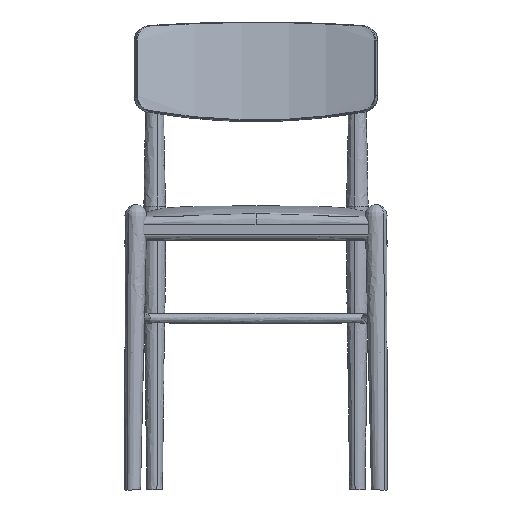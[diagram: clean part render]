
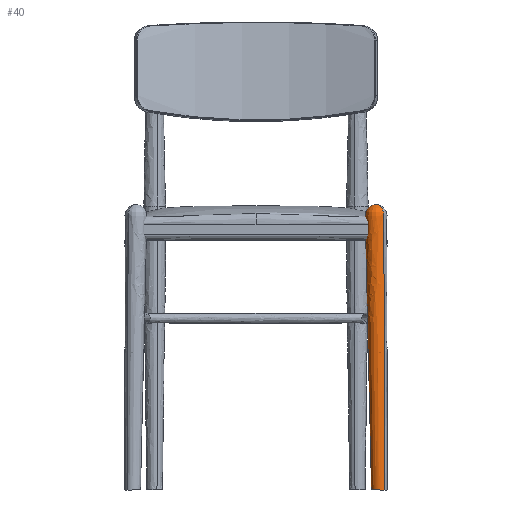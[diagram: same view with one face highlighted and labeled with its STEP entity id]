
A CAD part, front view. The second image highlights one B-rep face of the part: STEP entity #40.
In plain terms, the highlighted free-form (B-spline) face has degree [2, 2] with [5, 9] control points.
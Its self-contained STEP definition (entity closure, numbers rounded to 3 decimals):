
#40=ADVANCED_FACE('',(#111),#950,.T.);
#111=FACE_OUTER_BOUND('',#182,.T.);
#182=EDGE_LOOP('',(#304,#305,#306));
#304=ORIENTED_EDGE('',*,*,#614,.T.);
#305=ORIENTED_EDGE('',*,*,#579,.F.);
#306=ORIENTED_EDGE('',*,*,#580,.F.);
#579=EDGE_CURVE('',#872,#896,#806,.T.);
#580=EDGE_CURVE('',#873,#872,#703,.T.);
#614=EDGE_CURVE('',#873,#896,#716,.T.);
#703=(
BOUNDED_CURVE()
B_SPLINE_CURVE(2,(#4288,#4289,#4290,#4291,#4292,#4293,#4294,#4295,#4296),
 .UNSPECIFIED.,.F.,.F.)
B_SPLINE_CURVE_WITH_KNOTS((3,2,2,2,3),(53.911,54.978,
109.956,989.341,989.625),.UNSPECIFIED.)
CURVE()
GEOMETRIC_REPRESENTATION_ITEM()
RATIONAL_B_SPLINE_CURVE((1.,1.,1.,0.707,1.,
1.,1.,1.,1.))
REPRESENTATION_ITEM('')
);
#716=(
BOUNDED_CURVE()
B_SPLINE_CURVE(2,(#4675,#4676,#4677,#4678,#4679,#4680,#4681),
 .UNSPECIFIED.,.F.,.F.)
B_SPLINE_CURVE_WITH_KNOTS((3,2,2,3),(53.911,54.978,
109.956,988.813),.UNSPECIFIED.)
CURVE()
GEOMETRIC_REPRESENTATION_ITEM()
RATIONAL_B_SPLINE_CURVE((1.,1.,1.,0.707,1.,
1.,1.))
REPRESENTATION_ITEM('')
);
#806=B_SPLINE_CURVE_WITH_KNOTS('',3,(#4267,#4268,#4269,#4270,#4271,#4272,
#4273,#4274,#4275,#4276,#4277,#4278,#4279,#4280,#4281,#4282,#4283,#4284,
#4285,#4286,#4287),.UNSPECIFIED.,.F.,.F.,(4,2,3,3,3,2,2,2,4),(0.,4.938,
9.876,15.935,19.764,24.704,29.644,
34.583,39.523),.UNSPECIFIED.);
#872=VERTEX_POINT('',#4225);
#873=VERTEX_POINT('',#4226);
#896=VERTEX_POINT('',#4249);
#950=(
BOUNDED_SURFACE()
B_SPLINE_SURFACE(2,2,((#3595,#3596,#3597,#3598,#3599,#3600,#3601,#3602,
#3603),(#3604,#3605,#3606,#3607,#3608,#3609,#3610,#3611,#3612),(#3613,#3614,
#3615,#3616,#3617,#3618,#3619,#3620,#3621),(#3622,#3623,#3624,#3625,#3626,
#3627,#3628,#3629,#3630),(#3631,#3632,#3633,#3634,#3635,#3636,#3637,#3638,
#3639)),.UNSPECIFIED.,.F.,.F.,.F.)
B_SPLINE_SURFACE_WITH_KNOTS((3,2,3),(3,2,2,2,3),(0.,27.446,54.892),
(53.911,54.978,109.956,989.341,1012.028),
 .UNSPECIFIED.)
GEOMETRIC_REPRESENTATION_ITEM()
RATIONAL_B_SPLINE_SURFACE(((0.989,0.994,1.,0.707,
1.,1.,1.,1.,
1.),(0.699,0.703,0.707,
0.5,0.707,0.707,0.707,
0.707,0.707),(0.989,0.994,
1.,0.707,1.,1.,1.,
1.,1.),(0.699,0.703,
0.707,0.5,0.707,0.707,
0.707,0.707,0.707),(0.989,
0.994,1.,0.707,1.,1.,
1.,1.,1.)))
REPRESENTATION_ITEM('')
SURFACE()
);
#3595=CARTESIAN_POINT('',(192.248,17.752,457.343));
#3596=CARTESIAN_POINT('',(192.419,17.581,457.347));
#3597=CARTESIAN_POINT('',(192.59,17.41,457.345));
#3598=CARTESIAN_POINT('',(204.958,5.042,457.146));
#3599=CARTESIAN_POINT('',(204.818,5.182,439.654));
#3600=CARTESIAN_POINT('',(205.577,4.423,219.898));
#3601=CARTESIAN_POINT('',(206.337,3.663,0.142));
#3602=CARTESIAN_POINT('',(206.357,3.643,-5.527));
#3603=CARTESIAN_POINT('',(206.376,3.624,-11.197));
#3604=CARTESIAN_POINT('',(192.248,17.752,457.343));
#3605=CARTESIAN_POINT('',(192.248,17.41,457.347));
#3606=CARTESIAN_POINT('',(192.248,17.069,457.345));
#3607=CARTESIAN_POINT('',(192.252,-7.664,457.146));
#3608=CARTESIAN_POINT('',(192.453,-7.182,439.654));
#3609=CARTESIAN_POINT('',(194.977,-6.178,219.898));
#3610=CARTESIAN_POINT('',(197.501,-5.173,0.142));
#3611=CARTESIAN_POINT('',(197.566,-5.147,-5.527));
#3612=CARTESIAN_POINT('',(197.631,-5.121,-11.197));
#3613=CARTESIAN_POINT('',(192.248,17.752,457.343));
#3614=CARTESIAN_POINT('',(192.077,17.581,457.343));
#3615=CARTESIAN_POINT('',(191.907,17.41,457.337));
#3616=CARTESIAN_POINT('',(179.548,5.04,456.854));
#3617=CARTESIAN_POINT('',(180.09,5.181,439.37));
#3618=CARTESIAN_POINT('',(184.378,4.421,219.654));
#3619=CARTESIAN_POINT('',(188.667,3.662,-0.061));
#3620=CARTESIAN_POINT('',(188.777,3.642,-5.729));
#3621=CARTESIAN_POINT('',(188.888,3.623,-11.397));
#3622=CARTESIAN_POINT('',(192.248,17.752,457.343));
#3623=CARTESIAN_POINT('',(191.907,17.752,457.339));
#3624=CARTESIAN_POINT('',(191.565,17.752,457.329));
#3625=CARTESIAN_POINT('',(166.843,17.745,456.562));
#3626=CARTESIAN_POINT('',(167.727,17.544,439.086));
#3627=CARTESIAN_POINT('',(173.779,15.02,219.411));
#3628=CARTESIAN_POINT('',(179.832,12.497,-0.264));
#3629=CARTESIAN_POINT('',(179.988,12.431,-5.931));
#3630=CARTESIAN_POINT('',(180.144,12.366,-11.598));
#3631=CARTESIAN_POINT('',(192.248,17.752,457.343));
#3632=CARTESIAN_POINT('',(192.077,17.923,457.339));
#3633=CARTESIAN_POINT('',(191.907,18.093,457.329));
#3634=CARTESIAN_POINT('',(179.549,30.451,456.562));
#3635=CARTESIAN_POINT('',(180.091,29.909,439.086));
#3636=CARTESIAN_POINT('',(184.38,25.62,219.411));
#3637=CARTESIAN_POINT('',(188.668,21.332,-0.264));
#3638=CARTESIAN_POINT('',(188.778,21.222,-5.931));
#3639=CARTESIAN_POINT('',(188.889,21.111,-11.598));
#4225=CARTESIAN_POINT('',(206.337,3.663,0.));
#4226=CARTESIAN_POINT('',(192.248,17.752,457.343));
#4249=CARTESIAN_POINT('',(188.663,21.337,0.));
#4267=CARTESIAN_POINT('',(206.337,3.663,0.));
#4268=CARTESIAN_POINT('',(205.177,2.502,0.));
#4269=CARTESIAN_POINT('',(203.8,1.582,0.));
#4270=CARTESIAN_POINT('',(200.768,0.326,0.));
#4271=CARTESIAN_POINT('',(199.143,0.003,0.));
#4272=CARTESIAN_POINT('',(197.502,0.003,0.));
#4273=CARTESIAN_POINT('',(195.493,0.003,0.));
#4274=CARTESIAN_POINT('',(193.512,0.487,0.));
#4275=CARTESIAN_POINT('',(191.73,1.416,0.));
#4276=CARTESIAN_POINT('',(190.6,2.004,0.));
#4277=CARTESIAN_POINT('',(189.566,2.762,0.));
#4278=CARTESIAN_POINT('',(188.665,3.662,0.));
#4279=CARTESIAN_POINT('',(187.505,4.822,0.));
#4280=CARTESIAN_POINT('',(186.584,6.2,0.));
#4281=CARTESIAN_POINT('',(185.327,9.233,0.));
#4282=CARTESIAN_POINT('',(185.003,10.858,0.));
#4283=CARTESIAN_POINT('',(185.003,14.141,0.));
#4284=CARTESIAN_POINT('',(185.326,15.766,0.));
#4285=CARTESIAN_POINT('',(186.581,18.799,0.));
#4286=CARTESIAN_POINT('',(187.502,20.177,0.));
#4287=CARTESIAN_POINT('',(188.663,21.337,0.));
#4288=CARTESIAN_POINT('',(192.248,17.752,457.343));
#4289=CARTESIAN_POINT('',(192.419,17.581,457.347));
#4290=CARTESIAN_POINT('',(192.59,17.41,457.345));
#4291=CARTESIAN_POINT('',(204.958,5.042,457.146));
#4292=CARTESIAN_POINT('',(204.818,5.182,439.654));
#4293=CARTESIAN_POINT('',(205.577,4.423,219.898));
#4294=CARTESIAN_POINT('',(206.337,3.663,0.142));
#4295=CARTESIAN_POINT('',(206.337,3.663,0.071));
#4296=CARTESIAN_POINT('',(206.337,3.663,0.));
#4675=CARTESIAN_POINT('',(192.248,17.752,457.343));
#4676=CARTESIAN_POINT('',(192.077,17.923,457.339));
#4677=CARTESIAN_POINT('',(191.907,18.093,457.329));
#4678=CARTESIAN_POINT('',(179.549,30.451,456.562));
#4679=CARTESIAN_POINT('',(180.091,29.909,439.086));
#4680=CARTESIAN_POINT('',(184.377,25.623,219.543));
#4681=CARTESIAN_POINT('',(188.663,21.337,0.));
